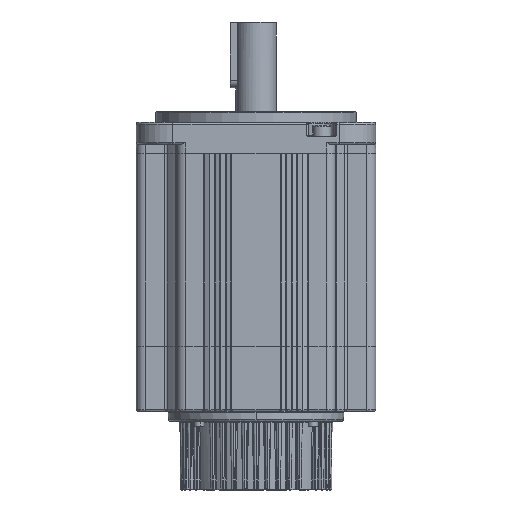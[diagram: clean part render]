
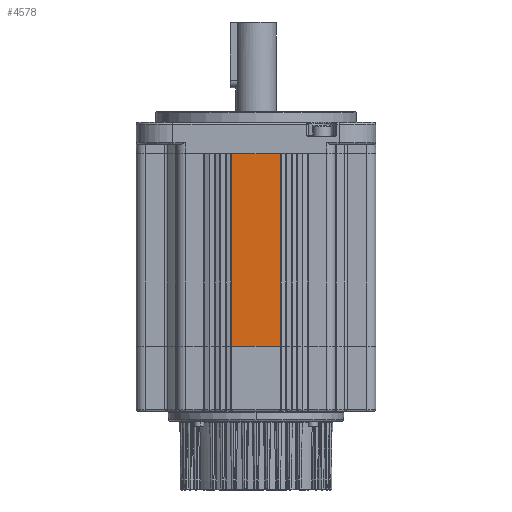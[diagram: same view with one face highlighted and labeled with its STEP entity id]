
A CAD part, front view. The second image highlights one B-rep face of the part: STEP entity #4578.
In plain terms, the highlighted planar face has unit normal (0, -1, 0).
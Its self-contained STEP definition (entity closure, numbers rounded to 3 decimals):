
#3583 = EDGE_CURVE ( 'NONE', #47671, #134241, #15990, .T. ) ;
#4578 = ADVANCED_FACE ( 'NONE', ( #58144 ), #93672, .F. ) ;
#9669 = VERTEX_POINT ( 'NONE', #82991 ) ;
#9980 = DIRECTION ( 'NONE',  ( 0., 0., 1. ) ) ;
#13121 = EDGE_LOOP ( 'NONE', ( #83424, #50000, #51826, #126518 ) ) ;
#15909 = CARTESIAN_POINT ( 'NONE',  ( -13.2, -65.5, 105.5 ) ) ;
#15990 = LINE ( 'NONE', #39033, #77404 ) ;
#28881 = EDGE_CURVE ( 'NONE', #130962, #134241, #50076, .T. ) ;
#39033 = CARTESIAN_POINT ( 'NONE',  ( 13.5, -65.5, 105.5 ) ) ;
#47671 = VERTEX_POINT ( 'NONE', #145558 ) ;
#50000 = ORIENTED_EDGE ( 'NONE', *, *, #28881, .T. ) ;
#50076 = LINE ( 'NONE', #126390, #109615 ) ;
#51826 = ORIENTED_EDGE ( 'NONE', *, *, #3583, .F. ) ;
#53879 = CARTESIAN_POINT ( 'NONE',  ( 13.5, -65.5, 0. ) ) ;
#58144 = FACE_OUTER_BOUND ( 'NONE', #13121, .T. ) ;
#74402 = DIRECTION ( 'NONE',  ( 1., 0., 0. ) ) ;
#76969 = AXIS2_PLACEMENT_3D ( 'NONE', #104062, #140580, #9980 ) ;
#77404 = VECTOR ( 'NONE', #74402, 1000. ) ;
#81547 = LINE ( 'NONE', #15909, #152409 ) ;
#82991 = CARTESIAN_POINT ( 'NONE',  ( -13.2, -65.5, 0. ) ) ;
#83424 = ORIENTED_EDGE ( 'NONE', *, *, #119696, .T. ) ;
#87628 = DIRECTION ( 'NONE',  ( 0., 0., -1. ) ) ;
#93672 = PLANE ( 'NONE',  #76969 ) ;
#101188 = DIRECTION ( 'NONE',  ( 1., 0., 0. ) ) ;
#101481 = VECTOR ( 'NONE', #101188, 1000. ) ;
#104062 = CARTESIAN_POINT ( 'NONE',  ( 13.5, -65.5, 105.5 ) ) ;
#109615 = VECTOR ( 'NONE', #138427, 1000. ) ;
#113784 = EDGE_CURVE ( 'NONE', #47671, #9669, #81547, .T. ) ;
#119696 = EDGE_CURVE ( 'NONE', #9669, #130962, #125702, .T. ) ;
#125702 = LINE ( 'NONE', #53879, #101481 ) ;
#126390 = CARTESIAN_POINT ( 'NONE',  ( 13.2, -65.5, 105.5 ) ) ;
#126518 = ORIENTED_EDGE ( 'NONE', *, *, #113784, .T. ) ;
#130962 = VERTEX_POINT ( 'NONE', #147852 ) ;
#134241 = VERTEX_POINT ( 'NONE', #134459 ) ;
#134459 = CARTESIAN_POINT ( 'NONE',  ( 13.2, -65.5, 105.5 ) ) ;
#138427 = DIRECTION ( 'NONE',  ( 0., 0., 1. ) ) ;
#140580 = DIRECTION ( 'NONE',  ( 0., 1., 0. ) ) ;
#145558 = CARTESIAN_POINT ( 'NONE',  ( -13.2, -65.5, 105.5 ) ) ;
#147852 = CARTESIAN_POINT ( 'NONE',  ( 13.2, -65.5, 0. ) ) ;
#152409 = VECTOR ( 'NONE', #87628, 1000. ) ;
